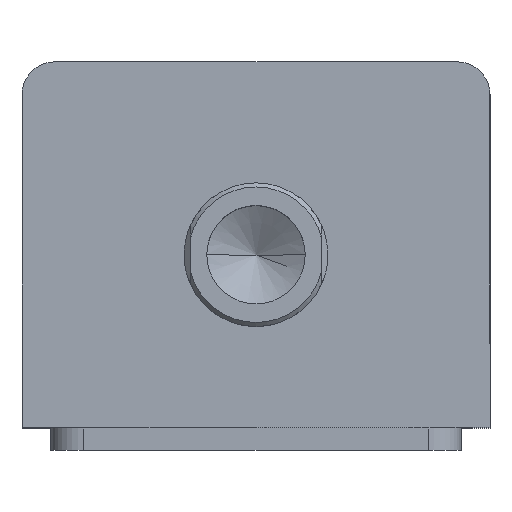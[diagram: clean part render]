
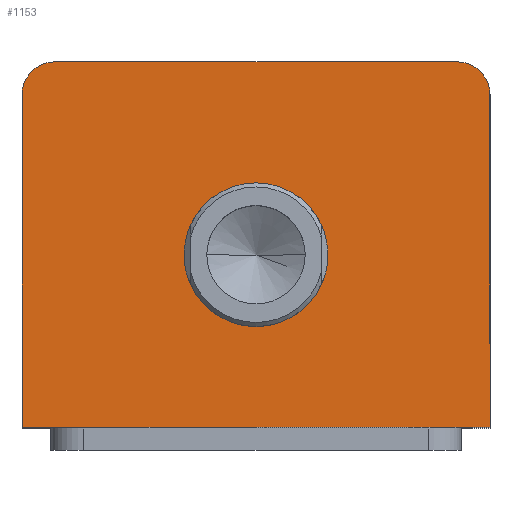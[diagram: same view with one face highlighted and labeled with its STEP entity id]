
A CAD part, top view. The second image highlights one B-rep face of the part: STEP entity #1153.
In plain terms, the highlighted planar face has unit normal (0, 0, 1).
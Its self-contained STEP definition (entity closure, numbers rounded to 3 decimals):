
#45 = FACE_OUTER_BOUND ( 'NONE', #1675, .T. ) ;
#46 = FACE_BOUND ( 'NONE', #1677, .T. ) ;
#54 = AXIS2_PLACEMENT_3D ( 'NONE', #1973, #1863, #2031 ) ;
#61 = AXIS2_PLACEMENT_3D ( 'NONE', #1887, #1943, #1934 ) ;
#117 = EDGE_CURVE ( 'NONE', #1500, #1409, #1403, .T. ) ;
#240 = AXIS2_PLACEMENT_3D ( 'NONE', #2704, #2746, #2701 ) ;
#415 = EDGE_CURVE ( 'NONE', #1446, #1437, #1377, .T. ) ;
#426 = EDGE_CURVE ( 'NONE', #1429, #1450, #1364, .T. ) ;
#447 = AXIS2_PLACEMENT_3D ( 'NONE', #543, #530, #529 ) ;
#529 = DIRECTION ( 'NONE',  ( 1., 0., 0. ) ) ;
#530 = DIRECTION ( 'NONE',  ( 0., 0., 1. ) ) ;
#533 = PLANE ( 'NONE',  #447 ) ;
#543 = CARTESIAN_POINT ( 'NONE',  ( 0., 0., 127. ) ) ;
#654 = DIRECTION ( 'NONE',  ( 1., 0., 0. ) ) ;
#656 = DIRECTION ( 'NONE',  ( 0., 0., 1. ) ) ;
#657 = CARTESIAN_POINT ( 'NONE',  ( 0., -2.5, 127. ) ) ;
#683 = DIRECTION ( 'NONE',  ( -1., 0., 0. ) ) ;
#686 = CARTESIAN_POINT ( 'NONE',  ( -57., 44.5, 127. ) ) ;
#699 = AXIS2_PLACEMENT_3D ( 'NONE', #657, #656, #654 ) ;
#1025 = EDGE_CURVE ( 'NONE', #1409, #1446, #1278, .T. ) ;
#1051 = EDGE_CURVE ( 'NONE', #1582, #1436, #1258, .T. ) ;
#1090 = EDGE_CURVE ( 'NONE', #1437, #1429, #1106, .T. ) ;
#1103 = VECTOR ( 'NONE', #683, 1000. ) ;
#1106 = LINE ( 'NONE', #686, #1103 ) ;
#1153 = ADVANCED_FACE ( 'NONE', ( #46, #45 ), #533, .T. ) ;
#1258 = CIRCLE ( 'NONE', #699, 17.5 ) ;
#1275 = VECTOR ( 'NONE', #1859, 1000. ) ;
#1278 = LINE ( 'NONE', #1861, #1275 ) ;
#1364 = CIRCLE ( 'NONE', #54, 8. ) ;
#1377 = CIRCLE ( 'NONE', #61, 8. ) ;
#1398 = VECTOR ( 'NONE', #2011, 1000. ) ;
#1403 = LINE ( 'NONE', #1981, #1398 ) ;
#1409 = VERTEX_POINT ( 'NONE', #3111 ) ;
#1429 = VERTEX_POINT ( 'NONE', #3354 ) ;
#1436 = VERTEX_POINT ( 'NONE', #3095 ) ;
#1437 = VERTEX_POINT ( 'NONE', #2582 ) ;
#1446 = VERTEX_POINT ( 'NONE', #2559 ) ;
#1450 = VERTEX_POINT ( 'NONE', #2555 ) ;
#1500 = VERTEX_POINT ( 'NONE', #2436 ) ;
#1582 = VERTEX_POINT ( 'NONE', #2542 ) ;
#1675 = EDGE_LOOP ( 'NONE', ( #2276, #2324, #2289, #2312, #2309, #2307 ) ) ;
#1677 = EDGE_LOOP ( 'NONE', ( #3392, #2269 ) ) ;
#1859 = DIRECTION ( 'NONE',  ( 0., 1., 0. ) ) ;
#1861 = CARTESIAN_POINT ( 'NONE',  ( 57., 44.5, 127. ) ) ;
#1863 = DIRECTION ( 'NONE',  ( 0., 0., 1. ) ) ;
#1887 = CARTESIAN_POINT ( 'NONE',  ( 49., 36.5, 127. ) ) ;
#1934 = DIRECTION ( 'NONE',  ( 1., 0., 0. ) ) ;
#1943 = DIRECTION ( 'NONE',  ( 0., 0., 1. ) ) ;
#1973 = CARTESIAN_POINT ( 'NONE',  ( -49., 36.5, 127. ) ) ;
#1981 = CARTESIAN_POINT ( 'NONE',  ( -57., -44.5, 127. ) ) ;
#2011 = DIRECTION ( 'NONE',  ( 1., 0., 0. ) ) ;
#2031 = DIRECTION ( 'NONE',  ( 1., 0., 0. ) ) ;
#2115 = EDGE_CURVE ( 'NONE', #1436, #1582, #2771, .T. ) ;
#2269 = ORIENTED_EDGE ( 'NONE', *, *, #1051, .F. ) ;
#2276 = ORIENTED_EDGE ( 'NONE', *, *, #1090, .T. ) ;
#2289 = ORIENTED_EDGE ( 'NONE', *, *, #3077, .T. ) ;
#2307 = ORIENTED_EDGE ( 'NONE', *, *, #415, .T. ) ;
#2309 = ORIENTED_EDGE ( 'NONE', *, *, #1025, .T. ) ;
#2312 = ORIENTED_EDGE ( 'NONE', *, *, #117, .T. ) ;
#2324 = ORIENTED_EDGE ( 'NONE', *, *, #426, .T. ) ;
#2436 = CARTESIAN_POINT ( 'NONE',  ( -57., -44.5, 127. ) ) ;
#2542 = CARTESIAN_POINT ( 'NONE',  ( -17.5, -2.5, 127. ) ) ;
#2555 = CARTESIAN_POINT ( 'NONE',  ( -57., 36.5, 127. ) ) ;
#2559 = CARTESIAN_POINT ( 'NONE',  ( 57., 36.5, 127. ) ) ;
#2582 = CARTESIAN_POINT ( 'NONE',  ( 49., 44.5, 127. ) ) ;
#2661 = DIRECTION ( 'NONE',  ( 0., -1., 0. ) ) ;
#2663 = CARTESIAN_POINT ( 'NONE',  ( -57., 44.5, 127. ) ) ;
#2701 = DIRECTION ( 'NONE',  ( 1., 0., 0. ) ) ;
#2704 = CARTESIAN_POINT ( 'NONE',  ( 0., -2.5, 127. ) ) ;
#2746 = DIRECTION ( 'NONE',  ( 0., 0., 1. ) ) ;
#2771 = CIRCLE ( 'NONE', #240, 17.5 ) ;
#2817 = LINE ( 'NONE', #2663, #2820 ) ;
#2820 = VECTOR ( 'NONE', #2661, 1000. ) ;
#3077 = EDGE_CURVE ( 'NONE', #1450, #1500, #2817, .T. ) ;
#3095 = CARTESIAN_POINT ( 'NONE',  ( 17.5, -2.5, 127. ) ) ;
#3111 = CARTESIAN_POINT ( 'NONE',  ( 57., -44.5, 127. ) ) ;
#3354 = CARTESIAN_POINT ( 'NONE',  ( -49., 44.5, 127. ) ) ;
#3392 = ORIENTED_EDGE ( 'NONE', *, *, #2115, .F. ) ;
